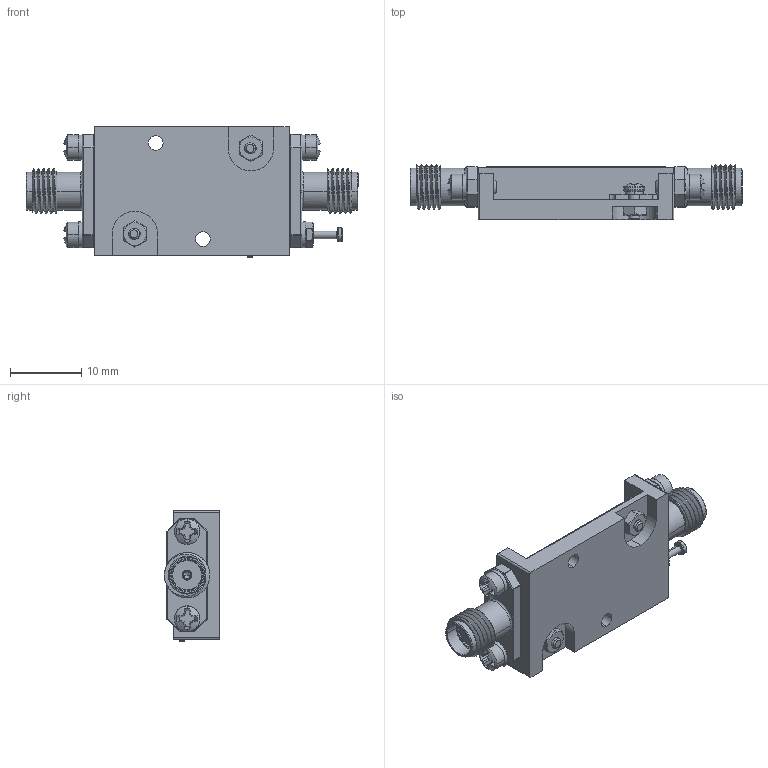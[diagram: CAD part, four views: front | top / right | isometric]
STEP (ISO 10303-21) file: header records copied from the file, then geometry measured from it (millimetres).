
FILE_DESCRIPTION (( 'STEP AP214' ), '1' );
FILE_NAME ('QSM-520-22-4-27-SFF.STEP', '2026-01-19T17:10:24', ( '' ), ( '' ), 'SwSTEP 2.0', 'SolidWorks 2025', '' );
FILE_SCHEMA (( 'AUTOMOTIVE_DESIGN' ));
Length unit declared in the file: inch
Products named in the file (1): QSM-520-22-4-27-SFF
Bounding box: 46.48 x 7.73 x 18.29 mm (x, y, z)
Volume: 2743.1 mm3; surface area: 5146.4 mm2
Topology: 27 solids, 27 shells, 1032 faces, 3263 edges, 2374 vertices
Faces by surface type: plane 383, cylinder 317, torus 131, cone 110, sphere 71, bspline 20
Entity records: 55051 total; most frequent: CARTESIAN_POINT 12949, ORIENTED_EDGE 6410, DIRECTION 5674, EDGE_CURVE 3205, VERTEX_POINT 2370, AXIS2_PLACEMENT_3D 2090, VECTOR 1494, LINE 1494
